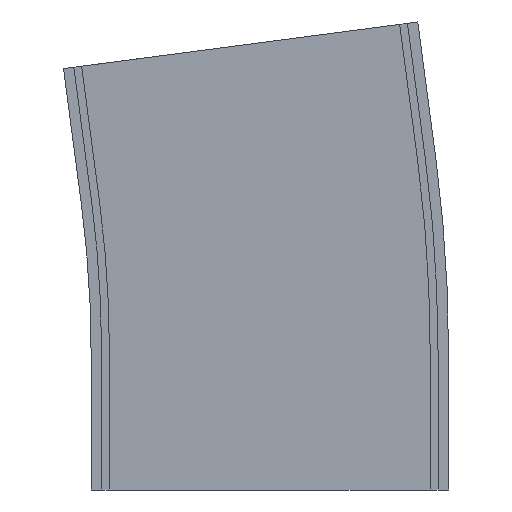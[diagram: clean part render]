
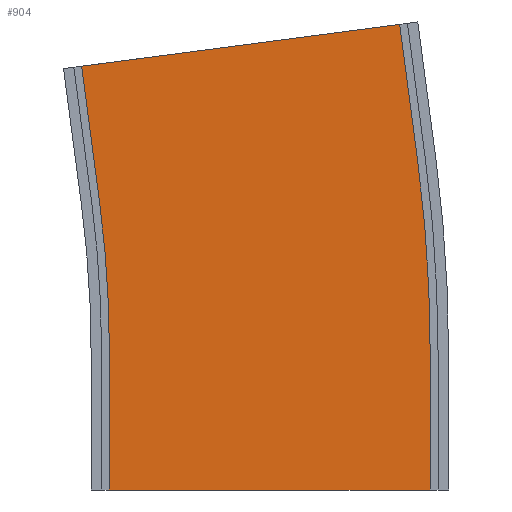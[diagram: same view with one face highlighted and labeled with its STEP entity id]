
A CAD part, left-side view. The second image highlights one B-rep face of the part: STEP entity #904.
In plain terms, the highlighted planar face has unit normal (-1, 0, 0).
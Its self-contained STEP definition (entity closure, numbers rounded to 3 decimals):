
#7 = VECTOR ( 'NONE', #60, 1000. ) ;
#20 = DIRECTION ( 'NONE',  ( 0., 0., -1. ) ) ;
#24 = CARTESIAN_POINT ( 'NONE',  ( -173., 61.25, 52.5 ) ) ;
#27 = CARTESIAN_POINT ( 'NONE',  ( -173., -49.596, 177.809 ) ) ;
#60 = DIRECTION ( 'NONE',  ( 0., 0.131, 0.991 ) ) ;
#74 = VERTEX_POINT ( 'NONE', #24 ) ;
#178 = CARTESIAN_POINT ( 'NONE',  ( -173., -56.448, 125.758 ) ) ;
#187 = VERTEX_POINT ( 'NONE', #924 ) ;
#208 = DIRECTION ( 'NONE',  ( 0., 1., 0. ) ) ;
#219 = EDGE_CURVE ( 'NONE', #757, #707, #1290, .T. ) ;
#263 = CARTESIAN_POINT ( 'NONE',  ( -173., 500., 52.5 ) ) ;
#311 = CARTESIAN_POINT ( 'NONE',  ( -173., -61.25, 52.5 ) ) ;
#318 = CARTESIAN_POINT ( 'NONE',  ( -173., -61.25, 52.5 ) ) ;
#330 = CIRCLE ( 'NONE', #1051, 438.75 ) ;
#351 = CARTESIAN_POINT ( 'NONE',  ( -173., -61.25, 0. ) ) ;
#352 = AXIS2_PLACEMENT_3D ( 'NONE', #318, #864, #208 ) ;
#421 = DIRECTION ( 'NONE',  ( -1., 0., 0. ) ) ;
#445 = ORIENTED_EDGE ( 'NONE', *, *, #1169, .T. ) ;
#462 = ORIENTED_EDGE ( 'NONE', *, *, #1209, .T. ) ;
#535 = DIRECTION ( 'NONE',  ( 0., 0., 1. ) ) ;
#554 = LINE ( 'NONE', #1311, #762 ) ;
#565 = EDGE_CURVE ( 'NONE', #967, #1178, #554, .T. ) ;
#568 = LINE ( 'NONE', #351, #712 ) ;
#569 = LINE ( 'NONE', #1366, #7 ) ;
#630 = ORIENTED_EDGE ( 'NONE', *, *, #729, .F. ) ;
#677 = VECTOR ( 'NONE', #913, 1000. ) ;
#689 = DIRECTION ( 'NONE',  ( 0., 0., -1. ) ) ;
#707 = VERTEX_POINT ( 'NONE', #713 ) ;
#712 = VECTOR ( 'NONE', #902, 1000. ) ;
#713 = CARTESIAN_POINT ( 'NONE',  ( -173., 71.856, 161.819 ) ) ;
#714 = FACE_OUTER_BOUND ( 'NONE', #1387, .T. ) ;
#715 = LINE ( 'NONE', #27, #677 ) ;
#729 = EDGE_CURVE ( 'NONE', #707, #187, #715, .T. ) ;
#757 = VERTEX_POINT ( 'NONE', #921 ) ;
#759 = EDGE_CURVE ( 'NONE', #967, #879, #1240, .T. ) ;
#762 = VECTOR ( 'NONE', #20, 1000. ) ;
#798 = CARTESIAN_POINT ( 'NONE',  ( -173., 61.25, 52.5 ) ) ;
#842 = VECTOR ( 'NONE', #689, 1000. ) ;
#844 = EDGE_CURVE ( 'NONE', #879, #187, #569, .T. ) ;
#849 = PLANE ( 'NONE',  #352 ) ;
#857 = CARTESIAN_POINT ( 'NONE',  ( -173., 61.25, 0. ) ) ;
#864 = DIRECTION ( 'NONE',  ( 1., 0., 0. ) ) ;
#879 = VERTEX_POINT ( 'NONE', #178 ) ;
#902 = DIRECTION ( 'NONE',  ( 0., -1., 0. ) ) ;
#904 = ADVANCED_FACE ( 'NONE', ( #714 ), #849, .F. ) ;
#907 = EDGE_CURVE ( 'NONE', #74, #757, #330, .T. ) ;
#911 = CARTESIAN_POINT ( 'NONE',  ( -173., -61.25, 0. ) ) ;
#913 = DIRECTION ( 'NONE',  ( 0., -0.991, 0.131 ) ) ;
#921 = CARTESIAN_POINT ( 'NONE',  ( -173., 65.004, 109.768 ) ) ;
#924 = CARTESIAN_POINT ( 'NONE',  ( -173., -49.596, 177.809 ) ) ;
#930 = ORIENTED_EDGE ( 'NONE', *, *, #907, .F. ) ;
#945 = DIRECTION ( 'NONE',  ( -1., 0., 0. ) ) ;
#967 = VERTEX_POINT ( 'NONE', #311 ) ;
#987 = VERTEX_POINT ( 'NONE', #857 ) ;
#1029 = AXIS2_PLACEMENT_3D ( 'NONE', #263, #945, #1032 ) ;
#1032 = DIRECTION ( 'NONE',  ( 0., 0., 1. ) ) ;
#1046 = CARTESIAN_POINT ( 'NONE',  ( -173., 65.004, 109.768 ) ) ;
#1051 = AXIS2_PLACEMENT_3D ( 'NONE', #1285, #421, #535 ) ;
#1102 = LINE ( 'NONE', #798, #842 ) ;
#1140 = DIRECTION ( 'NONE',  ( 0., 0.131, 0.991 ) ) ;
#1169 = EDGE_CURVE ( 'NONE', #987, #1178, #568, .T. ) ;
#1178 = VERTEX_POINT ( 'NONE', #911 ) ;
#1208 = ORIENTED_EDGE ( 'NONE', *, *, #219, .F. ) ;
#1209 = EDGE_CURVE ( 'NONE', #74, #987, #1102, .T. ) ;
#1240 = CIRCLE ( 'NONE', #1029, 561.25 ) ;
#1285 = CARTESIAN_POINT ( 'NONE',  ( -173., 500., 52.5 ) ) ;
#1290 = LINE ( 'NONE', #1046, #1301 ) ;
#1301 = VECTOR ( 'NONE', #1140, 1000. ) ;
#1306 = ORIENTED_EDGE ( 'NONE', *, *, #565, .F. ) ;
#1311 = CARTESIAN_POINT ( 'NONE',  ( -173., -61.25, 52.5 ) ) ;
#1324 = ORIENTED_EDGE ( 'NONE', *, *, #844, .T. ) ;
#1366 = CARTESIAN_POINT ( 'NONE',  ( -173., -56.448, 125.758 ) ) ;
#1387 = EDGE_LOOP ( 'NONE', ( #445, #1306, #1403, #1324, #630, #1208, #930, #462 ) ) ;
#1403 = ORIENTED_EDGE ( 'NONE', *, *, #759, .T. ) ;
